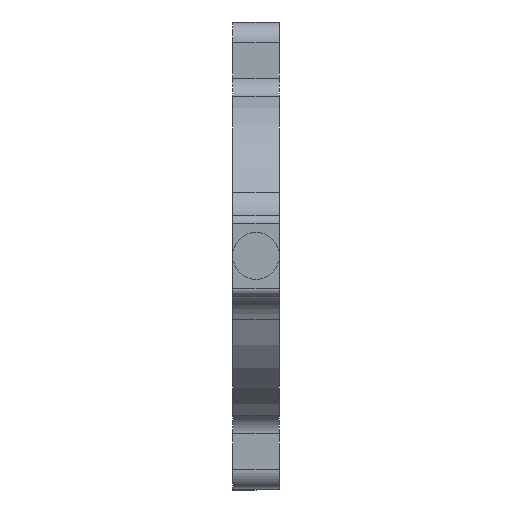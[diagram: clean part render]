
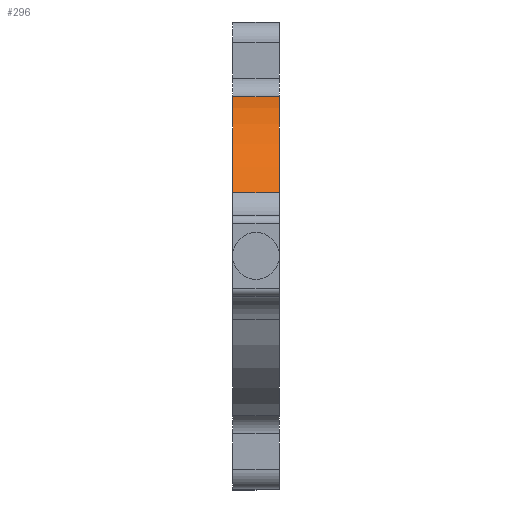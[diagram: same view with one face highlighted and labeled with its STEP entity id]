
A CAD part, left-side view. The second image highlights one B-rep face of the part: STEP entity #296.
In plain terms, the highlighted cylindrical face has radius 21.5 mm (diameter 43 mm), a partial arc.
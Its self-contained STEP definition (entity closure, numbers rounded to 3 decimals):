
#77=CYLINDRICAL_SURFACE('',#2516,21.5);
#192=FACE_OUTER_BOUND('',#758,.T.);
#296=ADVANCED_FACE('NONE',(#192),#77,.T.);
#435=LINE('',#3766,#556);
#475=LINE('',#3905,#596);
#556=VECTOR('',#2947,1.);
#596=VECTOR('',#3105,1.);
#758=EDGE_LOOP('',(#1144,#1145,#1146,#1147));
#1144=ORIENTED_EDGE('',*,*,#1833,.T.);
#1145=ORIENTED_EDGE('',*,*,#1925,.T.);
#1146=ORIENTED_EDGE('',*,*,#1995,.F.);
#1147=ORIENTED_EDGE('',*,*,#1996,.T.);
#1599=VERTEX_POINT('',#3575);
#1600=VERTEX_POINT('',#3577);
#1678=VERTEX_POINT('',#3764);
#1719=VERTEX_POINT('',#3904);
#1833=EDGE_CURVE('NONE',#1600,#1599,#2165,.T.);
#1925=EDGE_CURVE('NONE',#1599,#1678,#435,.T.);
#1995=EDGE_CURVE('NONE',#1719,#1678,#2250,.T.);
#1996=EDGE_CURVE('NONE',#1719,#1600,#475,.T.);
#2165=CIRCLE('',#2384,21.5);
#2250=CIRCLE('',#2515,21.5);
#2384=AXIS2_PLACEMENT_3D('',#3576,#2764,#2765);
#2515=AXIS2_PLACEMENT_3D('',#3903,#3103,#3104);
#2516=AXIS2_PLACEMENT_3D('',#3906,#3106,#3107);
#2764=DIRECTION('',(0.,1.,0.));
#2765=DIRECTION('',(0.,0.,1.));
#2947=DIRECTION('',(0.,1.,0.));
#3103=DIRECTION('',(0.,1.,0.));
#3104=DIRECTION('',(0.,0.,1.));
#3105=DIRECTION('',(0.,-1.,0.));
#3106=DIRECTION('',(0.,-1.,0.));
#3107=DIRECTION('',(0.,0.,-1.));
#3575=CARTESIAN_POINT('',(-6.719,0.,20.423));
#3576=CARTESIAN_POINT('',(0.,0.,0.));
#3577=CARTESIAN_POINT('',(-19.91,0.,8.113));
#3764=CARTESIAN_POINT('',(-6.719,6.,20.423));
#3766=CARTESIAN_POINT('',(-6.719,6.,20.423));
#3903=CARTESIAN_POINT('',(0.,6.,0.));
#3904=CARTESIAN_POINT('',(-19.91,6.,8.113));
#3905=CARTESIAN_POINT('',(-19.91,6.,8.113));
#3906=CARTESIAN_POINT('',(0.,6.,0.));
